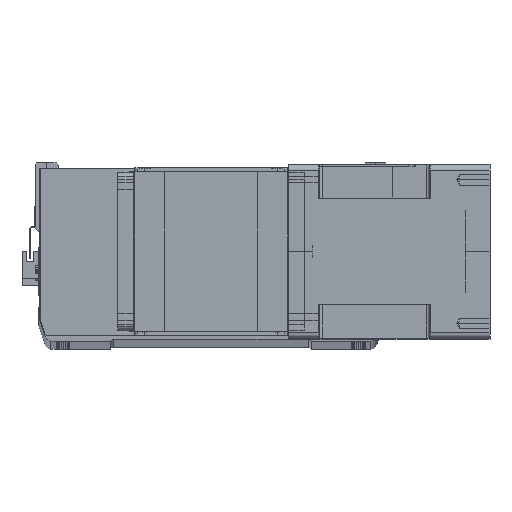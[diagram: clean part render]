
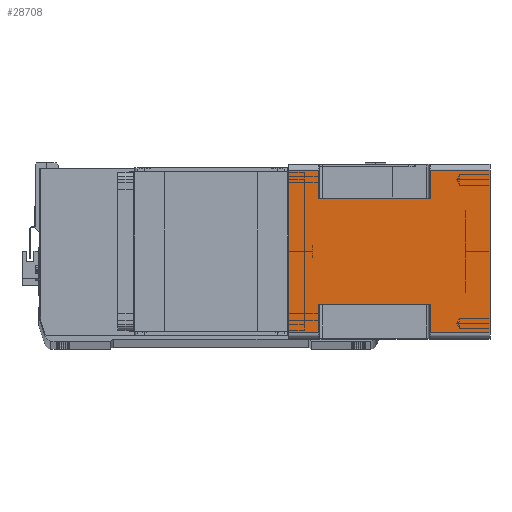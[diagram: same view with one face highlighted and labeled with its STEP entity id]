
A CAD part, top view. The second image highlights one B-rep face of the part: STEP entity #28708.
In plain terms, the highlighted planar face has unit normal (0, 0, 1) as drawn and (1, 0, 0) by its records, which use the part's own axes.
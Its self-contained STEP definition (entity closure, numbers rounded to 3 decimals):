
#539 = DIRECTION ( 'NONE',  ( 0., -1., 0. ) ) ;
#599 = FACE_OUTER_BOUND ( 'NONE', #7645, .T. ) ;
#1128 = LINE ( 'NONE', #26246, #10940 ) ;
#1517 = DIRECTION ( 'NONE',  ( 0., 1., 0. ) ) ;
#1659 = DIRECTION ( 'NONE',  ( 0., 0., 1. ) ) ;
#1698 = LINE ( 'NONE', #30132, #20533 ) ;
#1976 = EDGE_CURVE ( 'NONE', #13899, #23720, #7106, .T. ) ;
#2120 = ORIENTED_EDGE ( 'NONE', *, *, #11805, .T. ) ;
#2672 = CARTESIAN_POINT ( 'NONE',  ( 71., 43., -164. ) ) ;
#3208 = PLANE ( 'NONE',  #23633 ) ;
#4329 = ORIENTED_EDGE ( 'NONE', *, *, #9528, .F. ) ;
#5895 = ORIENTED_EDGE ( 'NONE', *, *, #28828, .F. ) ;
#6074 = CARTESIAN_POINT ( 'NONE',  ( 71., -66., -115.5 ) ) ;
#6438 = CARTESIAN_POINT ( 'NONE',  ( 71., -66., -164. ) ) ;
#7106 = LINE ( 'NONE', #9735, #21009 ) ;
#7645 = EDGE_LOOP ( 'NONE', ( #5895, #29439, #10409, #9110, #2120, #31752, #23912, #15657, #14396, #21280, #4329, #14380 ) ) ;
#9110 = ORIENTED_EDGE ( 'NONE', *, *, #15152, .T. ) ;
#9135 = LINE ( 'NONE', #20325, #21216 ) ;
#9230 = VERTEX_POINT ( 'NONE', #31270 ) ;
#9528 = EDGE_CURVE ( 'NONE', #13899, #23576, #12628, .T. ) ;
#9735 = CARTESIAN_POINT ( 'NONE',  ( 71., -43., -24.5 ) ) ;
#10133 = CARTESIAN_POINT ( 'NONE',  ( 71., -66., -164. ) ) ;
#10345 = VERTEX_POINT ( 'NONE', #32866 ) ;
#10409 = ORIENTED_EDGE ( 'NONE', *, *, #30089, .F. ) ;
#10822 = LINE ( 'NONE', #32295, #24265 ) ;
#10846 = EDGE_CURVE ( 'NONE', #32668, #12757, #12091, .T. ) ;
#10871 = CARTESIAN_POINT ( 'NONE',  ( 71., 66., -115.5 ) ) ;
#10940 = VECTOR ( 'NONE', #29096, 1000. ) ;
#11296 = CARTESIAN_POINT ( 'NONE',  ( 71., -66., 0. ) ) ;
#11805 = EDGE_CURVE ( 'NONE', #24746, #32668, #1698, .T. ) ;
#11930 = DIRECTION ( 'NONE',  ( 0., 1., 0. ) ) ;
#12091 = LINE ( 'NONE', #33928, #28160 ) ;
#12448 = EDGE_CURVE ( 'NONE', #17239, #12757, #12852, .T. ) ;
#12628 = LINE ( 'NONE', #10133, #36340 ) ;
#12757 = VERTEX_POINT ( 'NONE', #33349 ) ;
#12852 = LINE ( 'NONE', #2672, #23599 ) ;
#13781 = CARTESIAN_POINT ( 'NONE',  ( 71., 43., -24.5 ) ) ;
#13846 = LINE ( 'NONE', #33504, #18791 ) ;
#13899 = VERTEX_POINT ( 'NONE', #33971 ) ;
#14046 = DIRECTION ( 'NONE',  ( 0., 0., -1. ) ) ;
#14380 = ORIENTED_EDGE ( 'NONE', *, *, #1976, .T. ) ;
#14396 = ORIENTED_EDGE ( 'NONE', *, *, #31409, .T. ) ;
#15152 = EDGE_CURVE ( 'NONE', #10345, #24746, #34171, .T. ) ;
#15377 = VECTOR ( 'NONE', #1517, 1000. ) ;
#15657 = ORIENTED_EDGE ( 'NONE', *, *, #33813, .T. ) ;
#16058 = CARTESIAN_POINT ( 'NONE',  ( 71., 66., -24.5 ) ) ;
#16248 = CARTESIAN_POINT ( 'NONE',  ( 71., -66., -164. ) ) ;
#17239 = VERTEX_POINT ( 'NONE', #13781 ) ;
#18094 = CARTESIAN_POINT ( 'NONE',  ( 71., 66., 0. ) ) ;
#18217 = DIRECTION ( 'NONE',  ( 0., 0., 1. ) ) ;
#18791 = VECTOR ( 'NONE', #24908, 1000. ) ;
#20325 = CARTESIAN_POINT ( 'NONE',  ( 71., -66., -115.5 ) ) ;
#20533 = VECTOR ( 'NONE', #1659, 1000. ) ;
#20572 = VECTOR ( 'NONE', #26410, 1000. ) ;
#21009 = VECTOR ( 'NONE', #29700, 1000. ) ;
#21216 = VECTOR ( 'NONE', #539, 1000. ) ;
#21280 = ORIENTED_EDGE ( 'NONE', *, *, #23236, .F. ) ;
#23236 = EDGE_CURVE ( 'NONE', #23576, #24272, #32251, .T. ) ;
#23455 = CARTESIAN_POINT ( 'NONE',  ( 71., -66., -164. ) ) ;
#23521 = CARTESIAN_POINT ( 'NONE',  ( 71., 66., -164. ) ) ;
#23576 = VERTEX_POINT ( 'NONE', #30945 ) ;
#23599 = VECTOR ( 'NONE', #14046, 1000. ) ;
#23633 = AXIS2_PLACEMENT_3D ( 'NONE', #23455, #28680, #11930 ) ;
#23720 = VERTEX_POINT ( 'NONE', #29317 ) ;
#23912 = ORIENTED_EDGE ( 'NONE', *, *, #12448, .F. ) ;
#24265 = VECTOR ( 'NONE', #18217, 1000. ) ;
#24272 = VERTEX_POINT ( 'NONE', #18094 ) ;
#24274 = DIRECTION ( 'NONE',  ( 0., 0., 1. ) ) ;
#24746 = VERTEX_POINT ( 'NONE', #23521 ) ;
#24908 = DIRECTION ( 'NONE',  ( 0., 1., 0. ) ) ;
#25562 = VECTOR ( 'NONE', #25806, 1000. ) ;
#25806 = DIRECTION ( 'NONE',  ( 0., 1., 0. ) ) ;
#26246 = CARTESIAN_POINT ( 'NONE',  ( 71., 66., -164. ) ) ;
#26410 = DIRECTION ( 'NONE',  ( 0., 0., 1. ) ) ;
#26941 = VERTEX_POINT ( 'NONE', #16058 ) ;
#28091 = LINE ( 'NONE', #6438, #20572 ) ;
#28160 = VECTOR ( 'NONE', #31563, 1000. ) ;
#28680 = DIRECTION ( 'NONE',  ( 1., 0., 0. ) ) ;
#28708 = ADVANCED_FACE ( 'NONE', ( #599 ), #3208, .T. ) ;
#28828 = EDGE_CURVE ( 'NONE', #9230, #23720, #10822, .T. ) ;
#29096 = DIRECTION ( 'NONE',  ( 0., 0., 1. ) ) ;
#29317 = CARTESIAN_POINT ( 'NONE',  ( 71., -43., -24.5 ) ) ;
#29439 = ORIENTED_EDGE ( 'NONE', *, *, #30781, .T. ) ;
#29700 = DIRECTION ( 'NONE',  ( 0., 1., 0. ) ) ;
#30065 = VERTEX_POINT ( 'NONE', #6074 ) ;
#30089 = EDGE_CURVE ( 'NONE', #10345, #30065, #28091, .T. ) ;
#30132 = CARTESIAN_POINT ( 'NONE',  ( 71., 66., -164. ) ) ;
#30781 = EDGE_CURVE ( 'NONE', #9230, #30065, #9135, .T. ) ;
#30945 = CARTESIAN_POINT ( 'NONE',  ( 71., -66., 0. ) ) ;
#31270 = CARTESIAN_POINT ( 'NONE',  ( 71., -43., -115.5 ) ) ;
#31409 = EDGE_CURVE ( 'NONE', #26941, #24272, #1128, .T. ) ;
#31563 = DIRECTION ( 'NONE',  ( 0., -1., 0. ) ) ;
#31752 = ORIENTED_EDGE ( 'NONE', *, *, #10846, .T. ) ;
#32251 = LINE ( 'NONE', #11296, #25562 ) ;
#32295 = CARTESIAN_POINT ( 'NONE',  ( 71., -43., -164. ) ) ;
#32668 = VERTEX_POINT ( 'NONE', #10871 ) ;
#32866 = CARTESIAN_POINT ( 'NONE',  ( 71., -66., -164. ) ) ;
#33349 = CARTESIAN_POINT ( 'NONE',  ( 71., 43., -115.5 ) ) ;
#33504 = CARTESIAN_POINT ( 'NONE',  ( 71., -66., -24.5 ) ) ;
#33813 = EDGE_CURVE ( 'NONE', #17239, #26941, #13846, .T. ) ;
#33928 = CARTESIAN_POINT ( 'NONE',  ( 71., 43., -115.5 ) ) ;
#33971 = CARTESIAN_POINT ( 'NONE',  ( 71., -66., -24.5 ) ) ;
#34171 = LINE ( 'NONE', #16248, #15377 ) ;
#36340 = VECTOR ( 'NONE', #24274, 1000. ) ;
